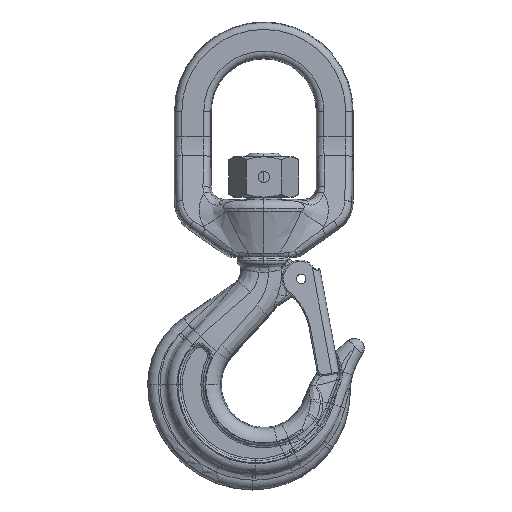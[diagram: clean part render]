
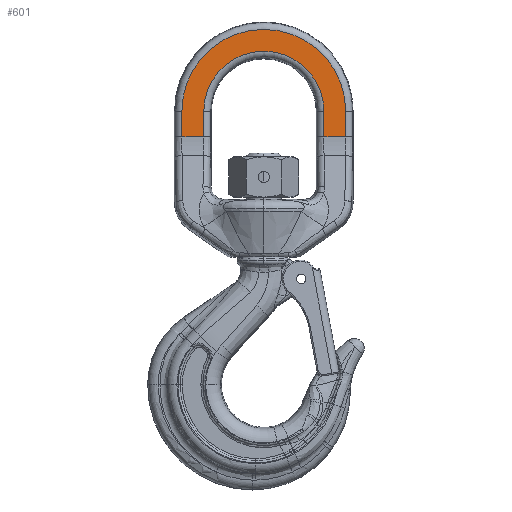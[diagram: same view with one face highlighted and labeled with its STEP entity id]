
A CAD part, top view. The second image highlights one B-rep face of the part: STEP entity #601.
In plain terms, the highlighted planar face has unit normal (0, 0, 1).
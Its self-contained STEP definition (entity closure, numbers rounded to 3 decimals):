
#601=ADVANCED_FACE('',(#1857),#1858,.T.);
#1857=FACE_OUTER_BOUND('',#27774,.T.);
#1858=PLANE('',#27775);
#27774=EDGE_LOOP('',(#33649,#33650,#33651,#33652,#33653,#33654,#33655,#33656));
#27775=AXIS2_PLACEMENT_3D('',#33657,#33658,#33659);
#33649=ORIENTED_EDGE('',*,*,#36416,.T.);
#33650=ORIENTED_EDGE('',*,*,#36419,.T.);
#33651=ORIENTED_EDGE('',*,*,#36420,.T.);
#33652=ORIENTED_EDGE('',*,*,#36421,.T.);
#33653=ORIENTED_EDGE('',*,*,#36412,.T.);
#33654=ORIENTED_EDGE('',*,*,#36422,.T.);
#33655=ORIENTED_EDGE('',*,*,#36423,.T.);
#33656=ORIENTED_EDGE('',*,*,#36424,.T.);
#33657=CARTESIAN_POINT('',(-50.0,162.48,6.5));
#33658=DIRECTION('',(0.0,0.,1.0));
#33659=DIRECTION('',(0.0,-1.0,0.));
#36412=EDGE_CURVE('',#38957,#38955,#38958,.F.);
#36416=EDGE_CURVE('',#38965,#38963,#38966,.T.);
#36419=EDGE_CURVE('',#38963,#38970,#38971,.F.);
#36420=EDGE_CURVE('',#38970,#38972,#38973,.F.);
#36421=EDGE_CURVE('',#38972,#38957,#38974,.T.);
#36422=EDGE_CURVE('',#38955,#38975,#38976,.T.);
#36423=EDGE_CURVE('',#38975,#38977,#38978,.T.);
#36424=EDGE_CURVE('',#38977,#38965,#38979,.F.);
#38955=VERTEX_POINT('',#55745);
#38957=VERTEX_POINT('',#55747);
#38958=LINE('',#55748,#55749);
#38963=VERTEX_POINT('',#55755);
#38965=VERTEX_POINT('',#55757);
#38966=LINE('',#55758,#55759);
#38970=VERTEX_POINT('',#55764);
#38971=LINE('',#55765,#55766);
#38972=VERTEX_POINT('',#55767);
#38973=CIRCLE('',#55768,26.884);
#38974=LINE('',#55769,#55770);
#38975=VERTEX_POINT('',#55771);
#38976=LINE('',#55772,#55773);
#38977=VERTEX_POINT('',#55774);
#38978=CIRCLE('',#55775,36.682);
#38979=LINE('',#55776,#55777);
#55745=CARTESIAN_POINT('',(36.682,111.043,6.5));
#55747=CARTESIAN_POINT('',(26.884,111.043,6.5));
#55748=CARTESIAN_POINT('',(36.682,111.043,6.5));
#55749=VECTOR('',#59790,9.798);
#55755=CARTESIAN_POINT('',(-26.884,111.043,6.5));
#55757=CARTESIAN_POINT('',(-36.682,111.043,6.5));
#55758=CARTESIAN_POINT('',(-36.682,111.043,6.5));
#55759=VECTOR('',#59798,9.798);
#55764=CARTESIAN_POINT('',(-26.884,122.48,6.5));
#55765=CARTESIAN_POINT('',(-26.884,122.48,6.5));
#55766=VECTOR('',#59803,11.437);
#55767=CARTESIAN_POINT('',(26.884,122.48,6.5));
#55768=AXIS2_PLACEMENT_3D('',#59804,#59805,#59806);
#55769=CARTESIAN_POINT('',(26.884,122.48,6.5));
#55770=VECTOR('',#59807,11.437);
#55771=CARTESIAN_POINT('',(36.682,122.48,6.5));
#55772=CARTESIAN_POINT('',(36.682,111.043,6.5));
#55773=VECTOR('',#59808,11.437);
#55774=CARTESIAN_POINT('',(-36.682,122.48,6.5));
#55775=AXIS2_PLACEMENT_3D('',#59809,#59810,#59811);
#55776=CARTESIAN_POINT('',(-36.682,111.043,6.5));
#55777=VECTOR('',#59812,11.437);
#59790=DIRECTION('',(-1.0,0.0,0.0));
#59798=DIRECTION('',(1.0,0.0,0.0));
#59803=DIRECTION('',(0.0,-1.0,0.));
#59804=CARTESIAN_POINT('',(0.,122.48,6.5));
#59805=DIRECTION('',(0.0,0.,1.0));
#59806=DIRECTION('',(0.0,-1.0,0.));
#59807=DIRECTION('',(0.0,-1.0,0.));
#59808=DIRECTION('',(0.0,1.0,0.));
#59809=CARTESIAN_POINT('',(0.,122.48,6.5));
#59810=DIRECTION('',(0.0,0.,1.0));
#59811=DIRECTION('',(0.0,-1.0,0.));
#59812=DIRECTION('',(0.0,1.0,0.));
